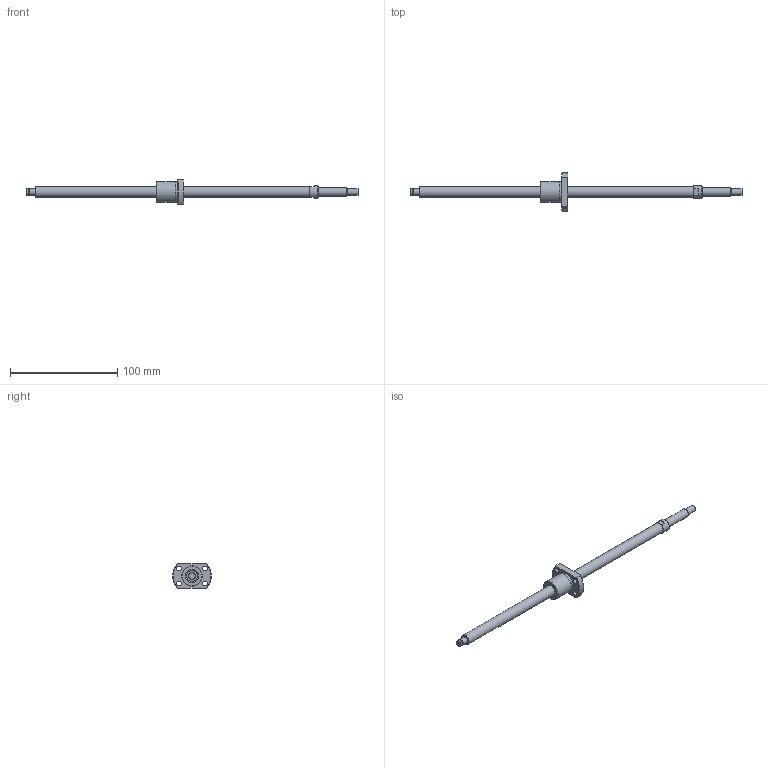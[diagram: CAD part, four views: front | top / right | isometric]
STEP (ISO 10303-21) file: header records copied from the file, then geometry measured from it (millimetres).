
FILE_DESCRIPTION(/* description */ ('STEP AP214'),/* implementation_level */ '2;1');
FILE_NAME(/* name */ 'NSGF1004Z-251R310C3-0-T-S-T-B-(112.5-S)',/* time_stamp */ '2026-08-24T20:15:37+02:00',/* author */ ('License CC BY-ND 4.0'),/* organization */ ('CADENAS'),/* preprocessor_version */ 'ST-DEVELOPER v20',/* originating_system */ 'PARTsolutions',/* authorisation */ ' ');
FILE_SCHEMA (('AUTOMOTIVE_DESIGN {1 0 10303 214 3 1 1}'));
Length unit declared in the file: millimetre
Products named in the file (3): NSGF1004Z-251R310C3-0-T-S-T-B-(112.5-S); NSG1004Z-251R31026_(T-S_T-B_2)_2; NSGF1004Z-1
Assembly tree (2 placements, depth 2):
  NSGF1004Z-251R310C3-0-T-S-T-B-(112.5-S)
    NSG1004Z-251R31026_(T-S_T-B_2)_2
    NSGF1004Z-1
Bounding box: 310 x 36 x 23 mm (x, y, z)
Volume: 29985 mm3; surface area: 13834.7 mm2
Topology: 2 solids, 2 shells, 47 faces, 99 edges, 64 vertices
Faces by surface type: plane 20, cylinder 17, cone 8, torus 2
Full cylindrical faces by diameter (mm): 4.5 x4, 5.7 x1, 6 x3, 8 x1, 10 x2, 11.5 x1, 16 x1, 18.7 x1, 19 x1
Entity records: 1235 total; most frequent: DIRECTION 214, CARTESIAN_POINT 208, ORIENTED_EDGE 148, AXIS2_PLACEMENT_3D 98, EDGE_LOOP 86, FACE_BOUND 86, EDGE_CURVE 74, VERTEX_POINT 60
